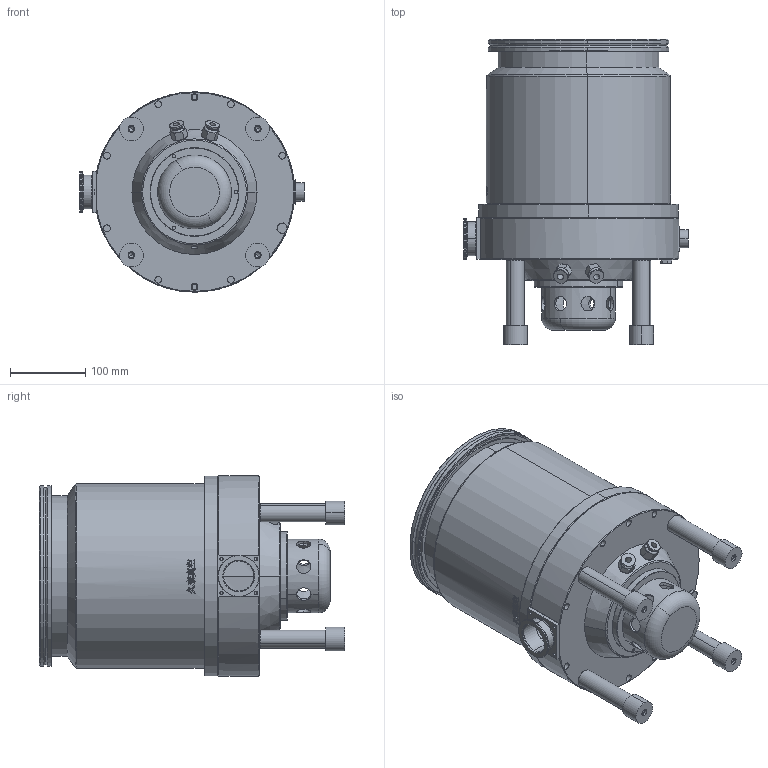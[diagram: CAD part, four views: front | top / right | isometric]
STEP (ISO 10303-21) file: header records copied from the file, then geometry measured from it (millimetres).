
FILE_DESCRIPTION (( 'STEP AP203' ), '1' );
FILE_NAME ('ISO-1200J-00W.STEP', '2025-03-29T06:42:48', ( 'User' ), ( 'China' ), 'SwSTEP 2.0', 'SolidWorks 2016', '' );
FILE_SCHEMA (( 'CONFIG_CONTROL_DESIGN' ));
Length unit declared in the file: millimetre
Products named in the file (13): SJJTB-07-01A; SJJTB-07-00H; SJJTB-600-02; SJJTB-1200-01W; SJJTB-1200-13; SJJTB-1200J-14-01-01W; SJJTB-1200J-14-01-00W; SJJTB-1200J-14-00W; 1200蝶杶; hexagon head bolts--product grade c gb_GB_FASTENER_BOLT_HHBC M8X65-N; 阨郲; 萇埭諉芛; ISO-1200J-00W
Assembly tree (19 placements, depth 4):
  ISO-1200J-00W
    SJJTB-07-00H
      SJJTB-07-01A
    SJJTB-600-02
    SJJTB-1200-01W
    SJJTB-1200-13  x4
    SJJTB-1200J-14-00W
      SJJTB-1200J-14-01-00W
        SJJTB-1200J-14-01-01W
    1200蝶杶  x4
    hexagon head bolts--product grade c gb_GB_FASTENER_BOLT_HHBC M8X65-N
    阨郲  x2
    萇埭諉芛
Bounding box: 297.52 x 405 x 266 mm (x, y, z)
Volume: 15018158.7 mm3; surface area: 660473.7 mm2
Topology: 16 solids, 16 shells, 767 faces, 1840 edges, 1177 vertices
Faces by surface type: cylinder 286, plane 187, bspline 141, cone 121, torus 32
Entity records: 47021 total; most frequent: CARTESIAN_POINT 30971, ORIENTED_EDGE 3172, DIRECTION 2666, EDGE_CURVE 1586, AXIS2_PLACEMENT_3D 1128, VERTEX_POINT 1031, EDGE_LOOP 797, ADVANCED_FACE 653
